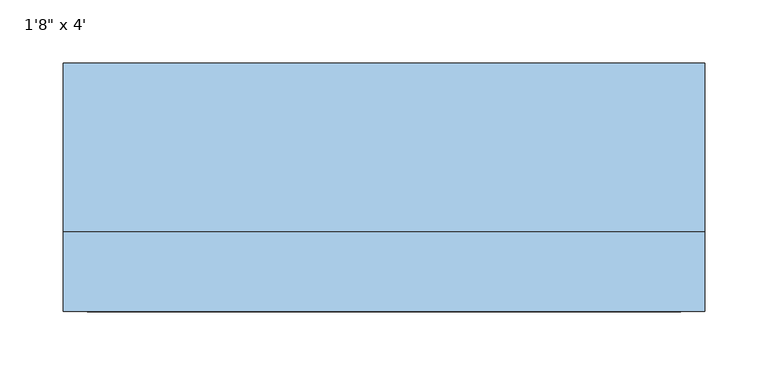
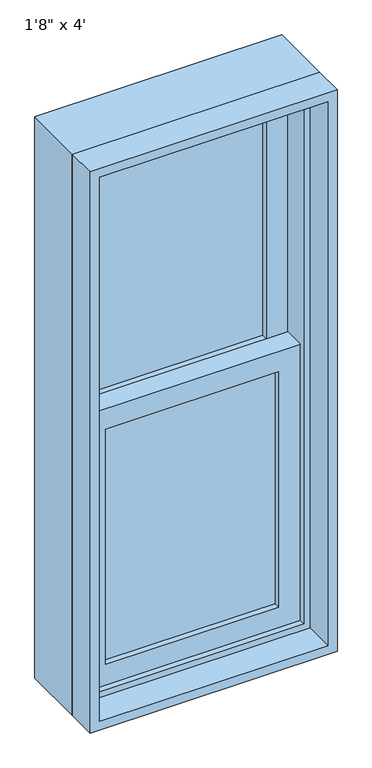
"""IFC4 building model written with IfcOpenShell, lengths in millimetres: window geometry."""

from ifc_helpers import new_model, si_unit, frame, origin, place, context, project, spatial, polyline, outline, extrude, source, transform, mapped, element, save


def window_d32207df(model_context):
    return source(origin(), model_context, "Body", "SweptSolid", [
        extrude(outline(polyline([(177.8, 19.05), (177.8, 12.7), (-177.8, 12.7), (-177.8, 19.05), (177.8, 19.05)])), frame((0.0, 0.0, 990.6), z_axis=(0.0, 0.0, 1.0), x_axis=(1.0, 0.0, 0.0)), (0.0, 0.0, 1.0), 511.175),
        extrude(outline(polyline([(-177.8, 6.35), (177.8, 6.35), (177.8, 0.0), (-177.8, 0.0), (-177.8, 6.35)])), frame((0.0, 0.0, 990.6), z_axis=(0.0, 0.0, 1.0), x_axis=(1.0, 0.0, 0.0)), (0.0, 0.0, 1.0), 511.175),
        extrude(outline(polyline([(177.8, 63.5), (177.8, 57.15), (-177.8, 57.15), (-177.8, 63.5), (177.8, 63.5)])), frame((0.0, 0.0, 1546.225), z_axis=(0.0, 0.0, 1.0), x_axis=(1.0, 0.0, 0.0)), (0.0, 0.0, 1.0), 511.175),
        extrude(outline(polyline([(-177.8, 50.8), (177.8, 50.8), (177.8, 44.45), (-177.8, 44.45), (-177.8, 50.8)])), frame((0.0, 0.0, 1546.225), z_axis=(0.0, 0.0, 1.0), x_axis=(1.0, 0.0, 0.0)), (0.0, 0.0, 1.0), 511.175),
        extrude(outline(polyline([(1546.225, -222.25), (946.15, -222.25), (946.15, 222.25), (1546.225, 222.25), (1546.225, -222.25)]), holes=[polyline([(1501.775, 177.8), (990.6, 177.8), (990.6, -177.8), (1501.775, -177.8), (1501.775, 177.8)])]), frame((0.0, -12.7, 0.0), z_axis=(0.0, 1.0, 0.0), x_axis=(0.0, 0.0, 1.0)), (0.0, 0.0, 1.0), 44.45),
        extrude(outline(polyline([(2101.85, -222.25), (1501.775, -222.25), (1501.775, 222.25), (2101.85, 222.25), (2101.85, -222.25)]), holes=[polyline([(2057.4, 177.8), (1546.225, 177.8), (1546.225, -177.8), (2057.4, -177.8), (2057.4, 177.8)])]), frame((0.0, 31.75, 0.0), z_axis=(0.0, 1.0, 0.0), x_axis=(0.0, 0.0, 1.0)), (0.0, 0.0, 1.0), 44.45),
        extrude(outline(polyline([(2133.6, -254.0), (914.4, -254.0), (914.4, 254.0), (2133.6, 254.0), (2133.6, -254.0)]), holes=[polyline([(2101.85, 222.25), (946.15, 222.25), (946.15, -222.25), (2101.85, -222.25), (2101.85, 222.25)])]), frame((0.0, -25.4, 0.0), z_axis=(0.0, 1.0, 0.0), x_axis=(0.0, 0.0, 1.0)), (0.0, 0.0, 1.0), 133.35),
        extrude(outline(polyline([(2133.6, 254.0), (2133.6, -254.0), (914.4, -254.0), (914.4, 254.0), (2133.6, 254.0)]), holes=[polyline([(2114.55, 234.95), (933.45, 234.95), (933.45, -234.95), (2114.55, -234.95), (2114.55, 234.95)])]), frame((0.0, -88.9, 0.0), z_axis=(0.0, 1.0, 0.0), x_axis=(0.0, 0.0, 1.0)), (0.0, 0.0, 1.0), 63.5),
    ])


if __name__ == "__main__":
    model = new_model("IFC4")
    model_context = context("Model", 3, world=origin())
    ifc_project = project(units=[si_unit("LENGTHUNIT", "METRE", prefix="MILLI")], contexts=[model_context])
    site = spatial("IfcSite", under=ifc_project)
    building = spatial("IfcBuilding", under=site)
    placement = place(None, origin())
    window_shape = window_d32207df(model_context)
    element("IfcWindow", 1, ObjectType="Planitar-Double-Hung-Single : 1'8\" x 4'", at=placement, inside=building, context=model_context, shape_type="MappedRepresentation", body=[
        mapped(window_shape, transform((0.0, 0.0, 0.0), x_axis=(1.0, 0.0, 0.0), y_axis=(0.0, 1.0, 0.0), z_axis=(0.0, 0.0, 1.0))),
    ])
    save(model, "model.ifc")
